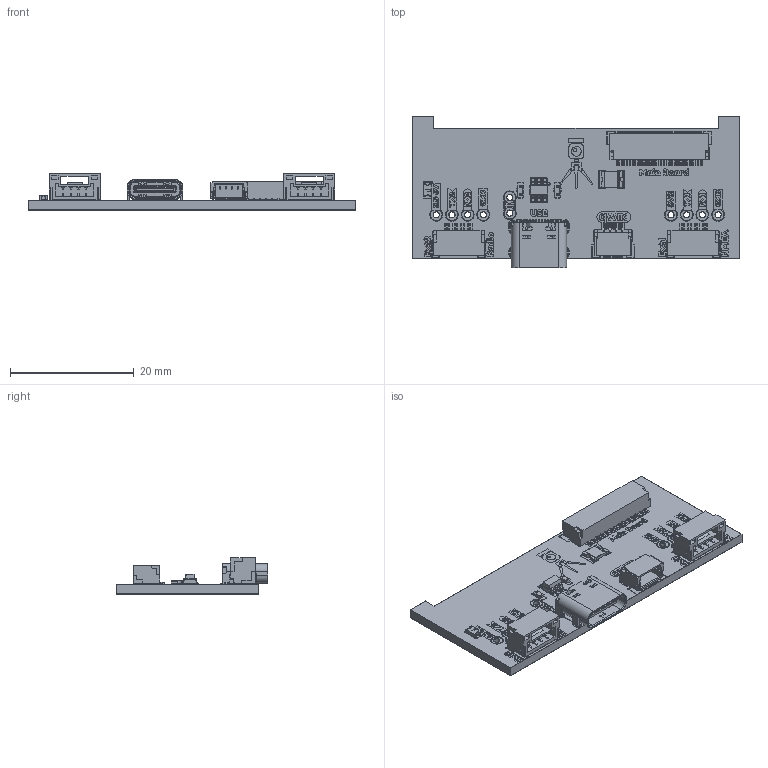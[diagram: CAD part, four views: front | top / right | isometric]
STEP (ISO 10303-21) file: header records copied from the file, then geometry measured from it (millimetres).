
FILE_DESCRIPTION(('KiCad electronic assembly'),'2;1');
FILE_NAME('SparkFun RTK Facet - External Connector.step', '2025-02-20T11:22:24',('Pcbnew'),('Kicad'), 'Open CASCADE STEP processor 7.8','KiCad to STEP converter','Unknown' );
FILE_SCHEMA(('AUTOMOTIVE_DESIGN { 1 0 10303 214 1 1 1 1 }'));
Length unit declared in the file: millimetre
Products named in the file (15): SparkFun RTK Facet - External Connector 1; R_0603_1608Metric; USB-C_16; USB4105GFA_USB4105GFA; Fuse_0805_2012Metric; JST_SMD_1.25mm-4_Locking; Qwiic-Horizontal; Fuse_1210_3225Metric; JST_SM14B-SRSS-TB; SOT-23-6; SparkFun RTK Facet - External Connector_copper; SparkFun RTK Facet - External Connector_pad; SparkFun RTK Facet - External Connector_silkscreen; SparkFun RTK Facet - External Connector_soldermask; SparkFun RTK Facet - External Connector_PCB
Assembly tree (16 placements, depth 3):
  SparkFun RTK Facet - External Connector 1
    R_0603_1608Metric  x2
    USB-C_16
      USB4105GFA_USB4105GFA
    Fuse_0805_2012Metric
    JST_SMD_1.25mm-4_Locking  x2
    Qwiic-Horizontal
    Fuse_1210_3225Metric
    JST_SM14B-SRSS-TB
    SOT-23-6
    SparkFun RTK Facet - External Connector_copper
    SparkFun RTK Facet - External Connector_pad
    SparkFun RTK Facet - External Connector_silkscreen
    SparkFun RTK Facet - External Connector_soldermask
    SparkFun RTK Facet - External Connector_PCB
Bounding box: 53 x 24.6 x 5.92 mm (x, y, z)
Volume: 2131.2 mm3; surface area: 6883.5 mm2
Topology: 166 solids, 287 shells, 2937 faces, 11034 edges, 8573 vertices
Faces by surface type: plane 2354, cylinder 480, cone 64, bspline 39
Full cylindrical faces by diameter (mm): 0.65 x2, 0.966 x30, 1.016 x20, 1.88 x20
Entity records: 117140 total; most frequent: CARTESIAN_POINT 22037, DIRECTION 17241, ORIENTED_EDGE 16873, EDGE_CURVE 10395, LINE 8695, VECTOR 8695, VERTEX_POINT 8151, AXIS2_PLACEMENT_3D 4273
